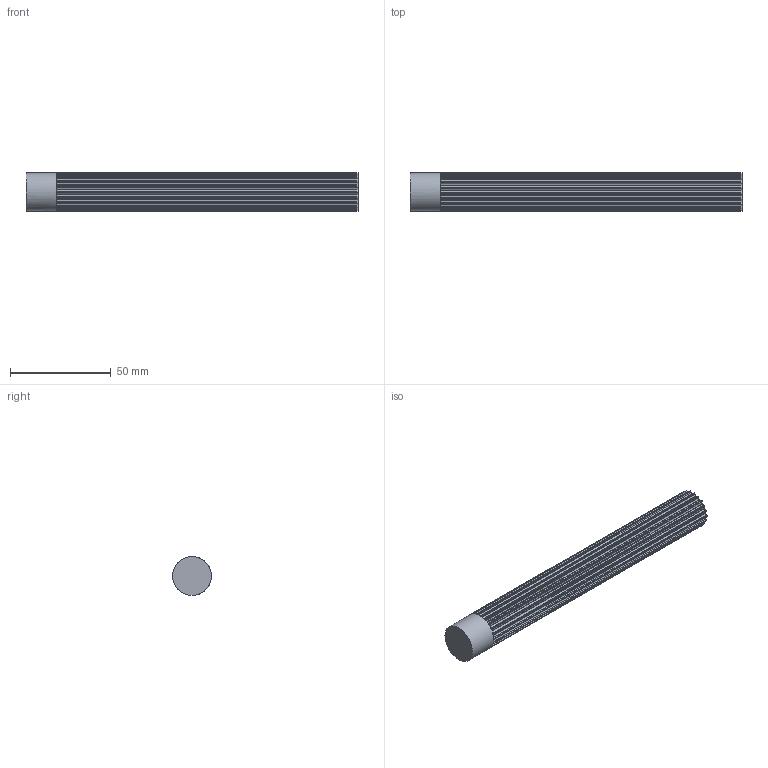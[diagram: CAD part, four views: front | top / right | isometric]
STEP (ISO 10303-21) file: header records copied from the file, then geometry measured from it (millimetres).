
FILE_DESCRIPTION( ( 'STEP AP214' ), '1' );
FILE_NAME( 'C:/Users/StangenbergN/Desktop/Steps Zahnriemenräder/K166_HTD-Zahnwellen/17092100.stp', '2019-06-06T09:33:56', ( '' ), ( '' ), ' ', 'PARTsolutions', ' ' );
FILE_SCHEMA( ( 'AUTOMOTIVE_DESIGN { 1 0 10303 214 1 1 1 1 }' ) );
Length unit declared in the file: millimetre
Products named in the file (1): _17092100
Bounding box: 165 x 19.29 x 19.29 mm (x, y, z)
Volume: 41616.2 mm3; surface area: 13868.3 mm2
Topology: 1 solids, 1 shells, 171 faces, 507 edges, 338 vertices
Faces by surface type: plane 86, cylinder 85
Full cylindrical faces by diameter (mm): 19.29 x1
Entity records: 7182 total; most frequent: DIRECTION 1060, CARTESIAN_POINT 1014, ORIENTED_EDGE 1010, EDGE_CURVE 505, AXIS2_PLACEMENT_3D 383, VERTEX_POINT 337, LINE 294, VECTOR 294
